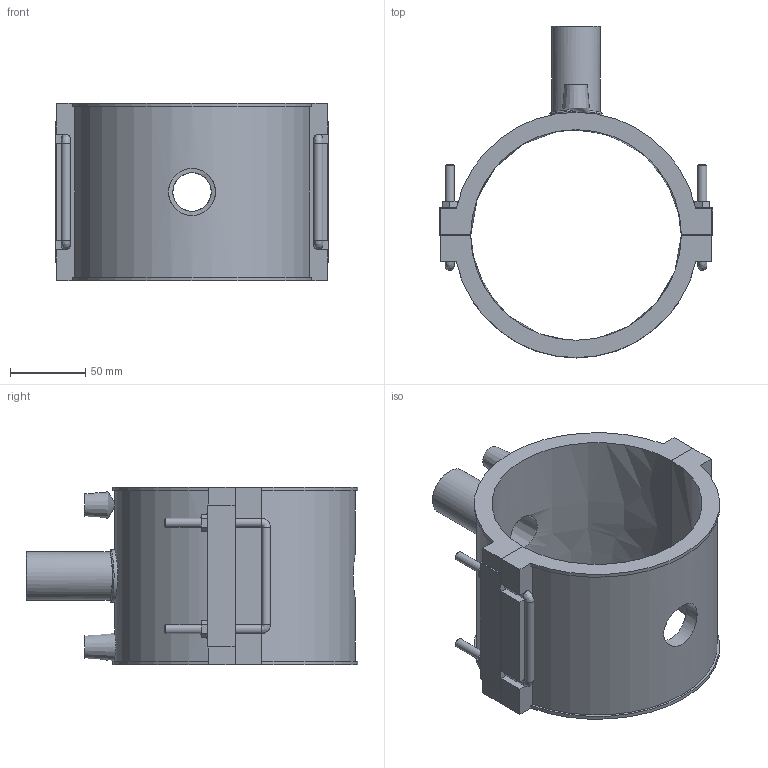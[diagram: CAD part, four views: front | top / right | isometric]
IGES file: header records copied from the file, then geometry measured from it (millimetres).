
Global section: file name: 495804140032.ipt; native system: Autodesk Inventor 2015; preprocessor: unknown; author: KIM; date: 20180426.120844; units: millimetre
Bounding box: 182 x 220.6 x 118 mm (x, y, z)
Volume: 670328.5 mm3; surface area: 159561.9 mm2
Topology: 2 solids, 2 shells, 133 faces, 340 edges, 214 vertices
Faces by surface type: plane 85, cylinder 22, revolution 10, bspline 9, cone 7
Full cylindrical faces by diameter (mm): 4 x2, 6 x10, 32 x1, 35.2 x1
